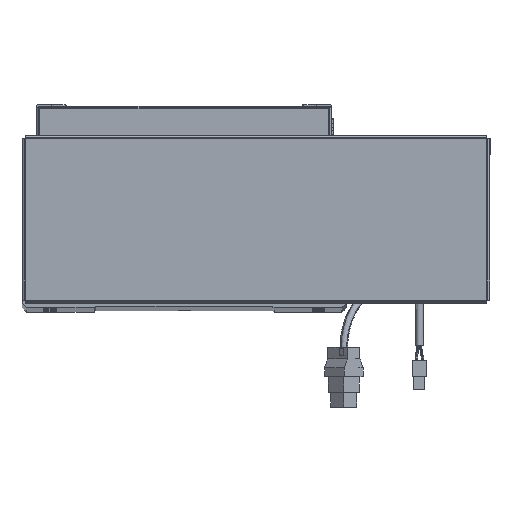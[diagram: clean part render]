
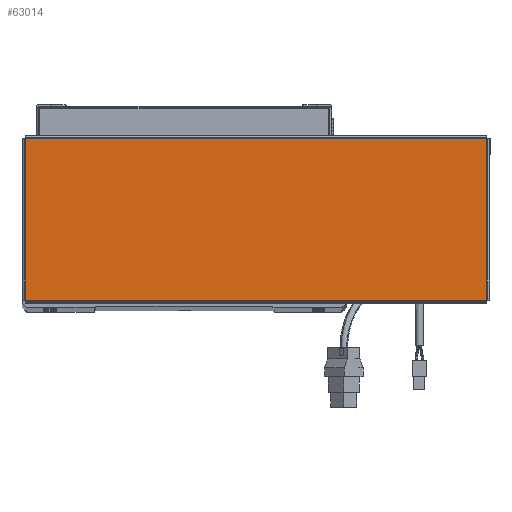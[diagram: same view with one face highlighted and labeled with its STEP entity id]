
A CAD part, top view. The second image highlights one B-rep face of the part: STEP entity #63014.
In plain terms, the highlighted planar face has unit normal (0, 0, 1).
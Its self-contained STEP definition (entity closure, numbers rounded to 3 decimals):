
#1716 = VERTEX_POINT ( 'NONE', #15401 ) ;
#2284 = DIRECTION ( 'NONE',  ( 0., -1., 0. ) ) ;
#3496 = ORIENTED_EDGE ( 'NONE', *, *, #26667, .T. ) ;
#3912 = EDGE_CURVE ( 'NONE', #46991, #36505, #67865, .T. ) ;
#8492 = DIRECTION ( 'NONE',  ( 0., 1., 0. ) ) ;
#8853 = PLANE ( 'NONE',  #56251 ) ;
#14277 = DIRECTION ( 'NONE',  ( 0., 0., 1. ) ) ;
#15342 = ORIENTED_EDGE ( 'NONE', *, *, #31997, .T. ) ;
#15401 = CARTESIAN_POINT ( 'NONE',  ( 156.513, 54.763, 0. ) ) ;
#17619 = ORIENTED_EDGE ( 'NONE', *, *, #21623, .T. ) ;
#17963 = ORIENTED_EDGE ( 'NONE', *, *, #3912, .T. ) ;
#18581 = LINE ( 'NONE', #24400, #23655 ) ;
#18632 = VECTOR ( 'NONE', #39908, 1000. ) ;
#19532 = CARTESIAN_POINT ( 'NONE',  ( 156.513, -54.793, 0. ) ) ;
#21623 = EDGE_CURVE ( 'NONE', #46646, #46991, #18581, .T. ) ;
#21708 = VECTOR ( 'NONE', #66932, 1000. ) ;
#23655 = VECTOR ( 'NONE', #2284, 1000. ) ;
#23710 = LINE ( 'NONE', #34260, #18632 ) ;
#24400 = CARTESIAN_POINT ( 'NONE',  ( -156.513, 54.793, 0. ) ) ;
#26667 = EDGE_CURVE ( 'NONE', #36505, #1716, #56125, .T. ) ;
#31997 = EDGE_CURVE ( 'NONE', #1716, #46646, #23710, .T. ) ;
#34260 = CARTESIAN_POINT ( 'NONE',  ( 156.543, 54.763, 0. ) ) ;
#36505 = VERTEX_POINT ( 'NONE', #68504 ) ;
#39908 = DIRECTION ( 'NONE',  ( -1., 0., 0. ) ) ;
#41861 = VECTOR ( 'NONE', #8492, 1000. ) ;
#45689 = CARTESIAN_POINT ( 'NONE',  ( -156.513, 54.763, 0. ) ) ;
#46410 = CARTESIAN_POINT ( 'NONE',  ( 0., 0., 0. ) ) ;
#46646 = VERTEX_POINT ( 'NONE', #45689 ) ;
#46991 = VERTEX_POINT ( 'NONE', #55399 ) ;
#51777 = DIRECTION ( 'NONE',  ( 1., 0., 0. ) ) ;
#52123 = EDGE_LOOP ( 'NONE', ( #17963, #3496, #15342, #17619 ) ) ;
#53181 = FACE_OUTER_BOUND ( 'NONE', #52123, .T. ) ;
#55399 = CARTESIAN_POINT ( 'NONE',  ( -156.513, -54.763, 0. ) ) ;
#56125 = LINE ( 'NONE', #19532, #41861 ) ;
#56180 = CARTESIAN_POINT ( 'NONE',  ( -156.543, -54.763, 0. ) ) ;
#56251 = AXIS2_PLACEMENT_3D ( 'NONE', #46410, #14277, #51777 ) ;
#63014 = ADVANCED_FACE ( 'NONE', ( #53181 ), #8853, .T. ) ;
#66932 = DIRECTION ( 'NONE',  ( 1., 0., 0. ) ) ;
#67865 = LINE ( 'NONE', #56180, #21708 ) ;
#68504 = CARTESIAN_POINT ( 'NONE',  ( 156.513, -54.763, 0. ) ) ;
